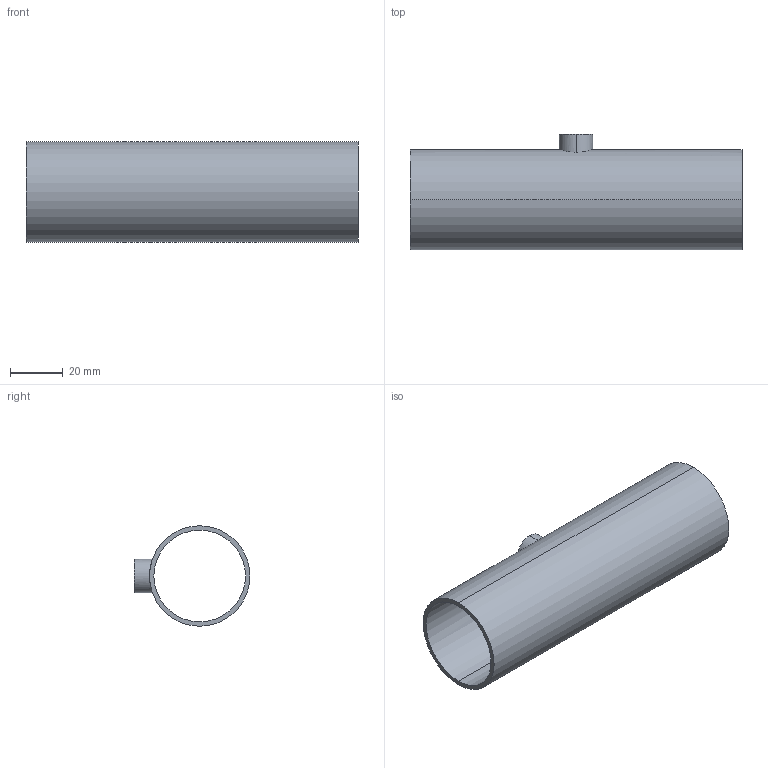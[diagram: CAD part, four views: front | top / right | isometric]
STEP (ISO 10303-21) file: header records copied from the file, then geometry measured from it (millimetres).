
FILE_DESCRIPTION (( 'STEP AP214' ), '1' );
FILE_NAME ('TEG7RS6L1.5x.5-...STEP', '2016-05-24T08:20:09', ( 'eran' ), ( '' ), 'SwSTEP 2.0', 'SolidWorks 2016', '' );
FILE_SCHEMA (( 'AUTOMOTIVE_DESIGN' ));
Length unit declared in the file: millimetre
Products named in the file (1): TEG7RS6L1.5x.5-..
Bounding box: 126 x 43.95 x 38.1 mm (x, y, z)
Volume: 24050.3 mm3; surface area: 29579.4 mm2
Topology: 1 solids, 1 shells, 11 faces, 24 edges, 16 vertices
Faces by surface type: cylinder 8, plane 3
Entity records: 496 total; most frequent: CARTESIAN_POINT 204, DIRECTION 56, ORIENTED_EDGE 48, AXIS2_PLACEMENT_3D 24, EDGE_CURVE 24, EDGE_LOOP 16, VERTEX_POINT 16, CIRCLE 12
